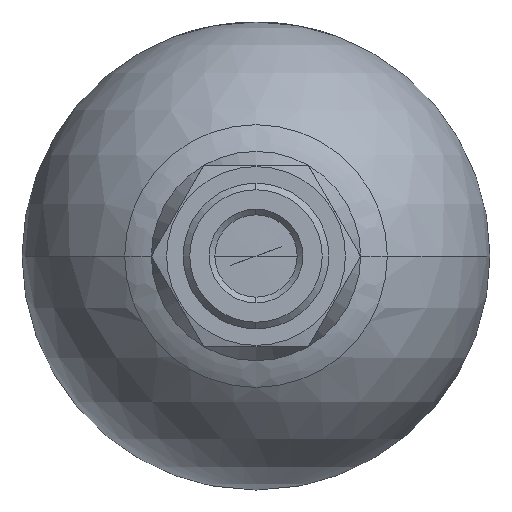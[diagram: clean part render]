
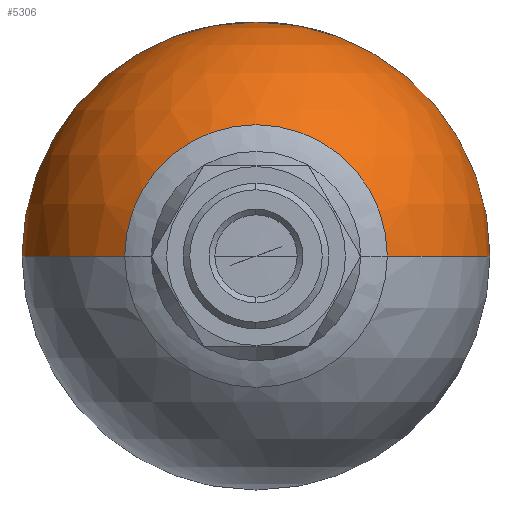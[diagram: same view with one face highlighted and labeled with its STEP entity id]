
A CAD part, front view. The second image highlights one B-rep face of the part: STEP entity #5306.
In plain terms, the highlighted spherical face has radius 53 mm.
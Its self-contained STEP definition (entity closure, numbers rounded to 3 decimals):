
#354 = EDGE_CURVE ( 'NONE', #1830, #7551, #2069, .T. ) ;
#682 = AXIS2_PLACEMENT_3D ( 'NONE', #8067, #1150, #7879 ) ;
#1150 = DIRECTION ( 'NONE',  ( 0., -1., 0. ) ) ;
#1797 = CARTESIAN_POINT ( 'NONE',  ( -53., 39., 0. ) ) ;
#1830 = VERTEX_POINT ( 'NONE', #1797 ) ;
#2069 = CIRCLE ( 'NONE', #5899, 53. ) ;
#2490 = DIRECTION ( 'NONE',  ( 0., 0., 1. ) ) ;
#2499 = DIRECTION ( 'NONE',  ( 0., 0., 1. ) ) ;
#2721 = AXIS2_PLACEMENT_3D ( 'NONE', #3117, #5871, #5827 ) ;
#2905 = EDGE_CURVE ( 'NONE', #6493, #7551, #6364, .T. ) ;
#3073 = EDGE_LOOP ( 'NONE', ( #5696, #6472, #3495, #7008 ) ) ;
#3117 = CARTESIAN_POINT ( 'NONE',  ( 0., 39., 0. ) ) ;
#3131 = DIRECTION ( 'NONE',  ( 1., 0., 0. ) ) ;
#3495 = ORIENTED_EDGE ( 'NONE', *, *, #2905, .F. ) ;
#3638 = DIRECTION ( 'NONE',  ( 1., 0., 0. ) ) ;
#3792 = SPHERICAL_SURFACE ( 'NONE', #6389, 53. ) ;
#4294 = CARTESIAN_POINT ( 'NONE',  ( 0., 39., 0. ) ) ;
#4370 = CARTESIAN_POINT ( 'NONE',  ( 29.751, -4.862, 0. ) ) ;
#4415 = FACE_OUTER_BOUND ( 'NONE', #3073, .T. ) ;
#4962 = DIRECTION ( 'NONE',  ( 0., -1., 0. ) ) ;
#5086 = CARTESIAN_POINT ( 'NONE',  ( -29.751, -4.862, 0. ) ) ;
#5218 = DIRECTION ( 'NONE',  ( 1., 0., 0. ) ) ;
#5235 = EDGE_CURVE ( 'NONE', #8237, #1830, #5399, .T. ) ;
#5262 = CARTESIAN_POINT ( 'NONE',  ( 53., 39., 0. ) ) ;
#5306 = ADVANCED_FACE ( 'NONE', ( #4415 ), #3792, .T. ) ;
#5399 = CIRCLE ( 'NONE', #8218, 53. ) ;
#5696 = ORIENTED_EDGE ( 'NONE', *, *, #5235, .T. ) ;
#5827 = DIRECTION ( 'NONE',  ( -1., 0., 0. ) ) ;
#5845 = CIRCLE ( 'NONE', #2721, 53. ) ;
#5871 = DIRECTION ( 'NONE',  ( 0., 0., -1. ) ) ;
#5899 = AXIS2_PLACEMENT_3D ( 'NONE', #8433, #2490, #3131 ) ;
#6364 = CIRCLE ( 'NONE', #682, 29.751 ) ;
#6389 = AXIS2_PLACEMENT_3D ( 'NONE', #6491, #2499, #5218 ) ;
#6472 = ORIENTED_EDGE ( 'NONE', *, *, #354, .T. ) ;
#6491 = CARTESIAN_POINT ( 'NONE',  ( 0., 39., 0. ) ) ;
#6493 = VERTEX_POINT ( 'NONE', #4370 ) ;
#7008 = ORIENTED_EDGE ( 'NONE', *, *, #8635, .F. ) ;
#7551 = VERTEX_POINT ( 'NONE', #5086 ) ;
#7879 = DIRECTION ( 'NONE',  ( 1., 0., 0. ) ) ;
#8067 = CARTESIAN_POINT ( 'NONE',  ( 0., -4.862, 0. ) ) ;
#8218 = AXIS2_PLACEMENT_3D ( 'NONE', #4294, #4962, #3638 ) ;
#8237 = VERTEX_POINT ( 'NONE', #5262 ) ;
#8433 = CARTESIAN_POINT ( 'NONE',  ( 0., 39., 0. ) ) ;
#8635 = EDGE_CURVE ( 'NONE', #8237, #6493, #5845, .T. ) ;
